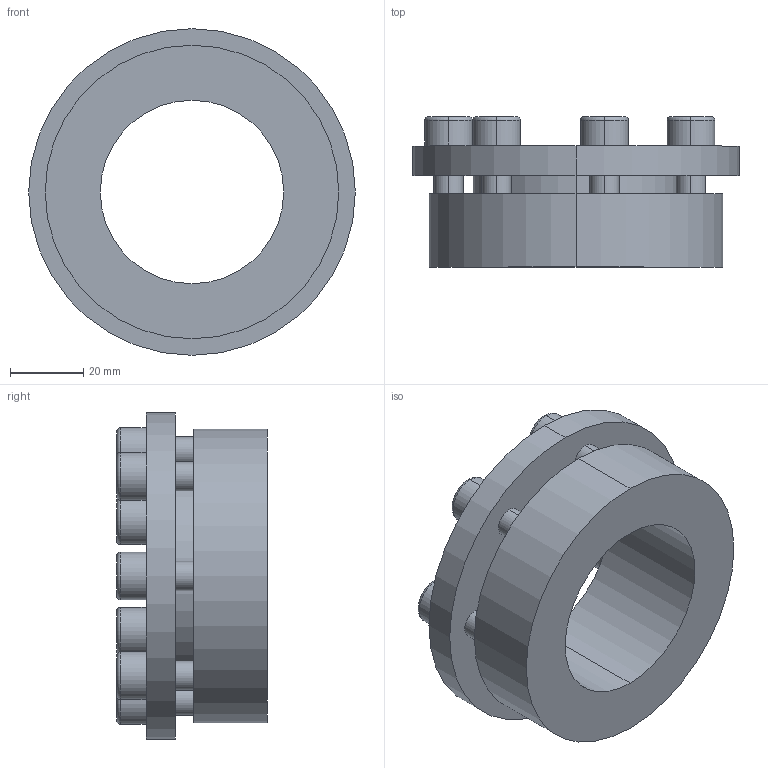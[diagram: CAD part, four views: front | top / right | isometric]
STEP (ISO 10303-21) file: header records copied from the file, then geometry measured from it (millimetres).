
FILE_DESCRIPTION (( 'STEP AP203' ), '1' );
FILE_NAME ('PL-H6 50-80.STEP', '2021-10-23T01:36:56', ( '' ), ( '' ), 'SwSTEP 2.0', 'SolidWorks 2018', '' );
FILE_SCHEMA (( 'CONFIG_CONTROL_DESIGN' ));
Length unit declared in the file: millimetre
Products named in the file (1): PL-H6 50-80
Bounding box: 89 x 41 x 89 mm (x, y, z)
Volume: 106079.9 mm3; surface area: 29888.2 mm2
Topology: 1 solids, 1 shells, 110 faces, 262 edges, 170 vertices
Faces by surface type: plane 60, cylinder 36, torus 14
Entity records: 3303 total; most frequent: DIRECTION 584, CARTESIAN_POINT 543, ORIENTED_EDGE 524, EDGE_CURVE 262, AXIS2_PLACEMENT_3D 211, VERTEX_POINT 170, LINE 162, VECTOR 162
